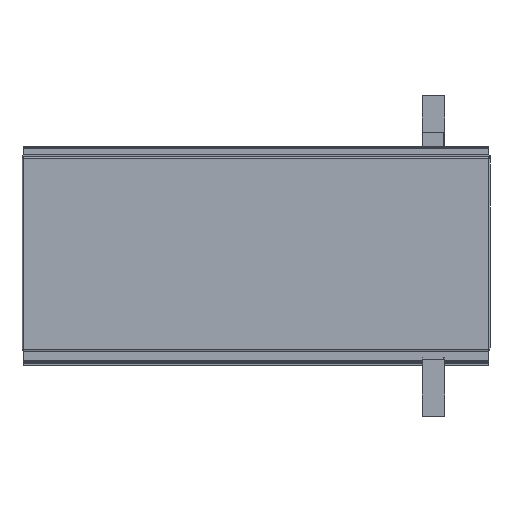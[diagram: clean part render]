
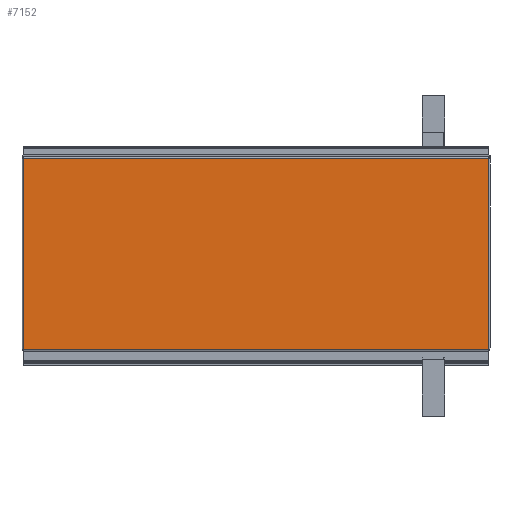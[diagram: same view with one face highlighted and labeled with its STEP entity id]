
A CAD part, front view. The second image highlights one B-rep face of the part: STEP entity #7152.
In plain terms, the highlighted planar face has unit normal (0, -1, 0) as drawn and (1, 0, 0) by its records, which use the part's own axes.
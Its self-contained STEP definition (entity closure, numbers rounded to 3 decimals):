
#4037=ORIENTED_EDGE('',*,*,#5561,.T.);
#4038=ORIENTED_EDGE('',*,*,#5498,.F.);
#4039=ORIENTED_EDGE('',*,*,#5562,.F.);
#4040=ORIENTED_EDGE('',*,*,#5563,.F.);
#4645=VECTOR('',#6175,1.);
#4687=VECTOR('',#6293,1.);
#4688=VECTOR('',#6296,1.);
#4689=VECTOR('',#6297,1.);
#4945=LINE('',#7351,#4645);
#4987=LINE('',#7475,#4687);
#4988=LINE('',#7478,#4688);
#4989=LINE('',#7479,#4689);
#5215=VERTEX_POINT('',#7264);
#5249=VERTEX_POINT('',#7349);
#5285=VERTEX_POINT('',#7436);
#5294=VERTEX_POINT('',#7477);
#5498=EDGE_CURVE('',#5215,#5249,#4945,.T.);
#5561=EDGE_CURVE('',#5285,#5249,#4987,.T.);
#5562=EDGE_CURVE('',#5294,#5215,#4988,.T.);
#5563=EDGE_CURVE('',#5285,#5294,#4989,.T.);
#5854=EDGE_LOOP('',(#4037,#4038,#4039,#4040));
#5990=FACE_BOUND('',#5854,.T.);
#6175=DIRECTION('',(0.,-507.773,0.));
#6293=DIRECTION('',(0.,0.,-1233.));
#6294=DIRECTION('',(1.,0.,0.));
#6295=DIRECTION('',(0.,-1.,0.));
#6296=DIRECTION('',(0.,0.,-1233.));
#6297=DIRECTION('',(0.,507.773,0.));
#6880=AXIS2_PLACEMENT_3D('',#7476,#6294,#6295);
#7047=PLANE('',#6880);
#7152=ADVANCED_FACE('',(#5990),#7047,.T.);
#7264=CARTESIAN_POINT('',(0.,532.315,-1236.));
#7349=CARTESIAN_POINT('',(0.,24.542,-1236.));
#7351=CARTESIAN_POINT('',(0.,532.315,-1236.));
#7436=CARTESIAN_POINT('',(0.,24.542,-3.));
#7475=CARTESIAN_POINT('',(0.,24.542,-3.));
#7476=CARTESIAN_POINT('',(0.,532.315,0.));
#7477=CARTESIAN_POINT('',(0.,532.315,-3.));
#7478=CARTESIAN_POINT('',(0.,532.315,-3.));
#7479=CARTESIAN_POINT('',(0.,24.542,-3.));
